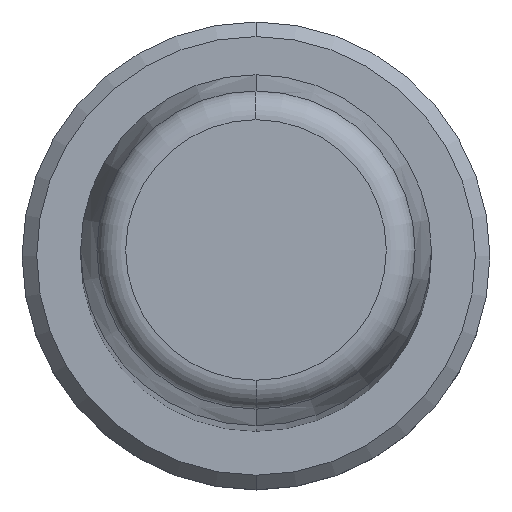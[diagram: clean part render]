
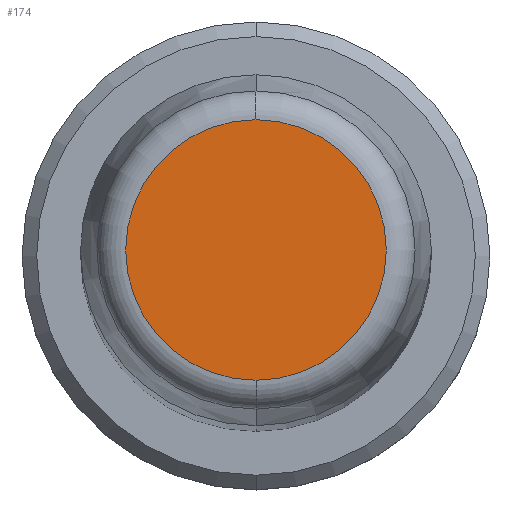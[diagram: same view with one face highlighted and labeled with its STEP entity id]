
A CAD part, top view. The second image highlights one B-rep face of the part: STEP entity #174.
In plain terms, the highlighted planar face has unit normal (0, 0, 1).
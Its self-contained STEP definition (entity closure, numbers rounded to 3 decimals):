
#1=CARTESIAN_POINT('',(0.,0.,120.));
#2=DIRECTION('',(0.,0.,-1.));
#3=DIRECTION('',(0.,-1.,0.));
#4=AXIS2_PLACEMENT_3D('',#1,#2,#3);
#6=CARTESIAN_POINT('',(0.,0.,120.));
#7=DIRECTION('',(0.,0.,-1.));
#8=DIRECTION('',(0.,1.,0.));
#9=AXIS2_PLACEMENT_3D('',#6,#7,#8);
#159=CARTESIAN_POINT('',(0.,-4.456,120.));
#160=CARTESIAN_POINT('',(0.,4.456,120.));
#161=VERTEX_POINT('',#159);
#162=VERTEX_POINT('',#160);
#163=CARTESIAN_POINT('',(0.,0.,120.));
#164=DIRECTION('',(0.,0.,1.));
#165=DIRECTION('',(0.,-1.,0.));
#166=AXIS2_PLACEMENT_3D('',#163,#164,#165);
#167=PLANE('',#166);
#169=ORIENTED_EDGE('',*,*,#168,.T.);
#171=ORIENTED_EDGE('',*,*,#170,.T.);
#172=EDGE_LOOP('',(#169,#171));
#173=FACE_OUTER_BOUND('',#172,.F.);
#174=ADVANCED_FACE('',(#173),#167,.T.);
#5=CIRCLE('',#4,4.456);
#10=CIRCLE('',#9,4.456);
#168=EDGE_CURVE('',#161,#162,#5,.T.);
#170=EDGE_CURVE('',#162,#161,#10,.T.);
